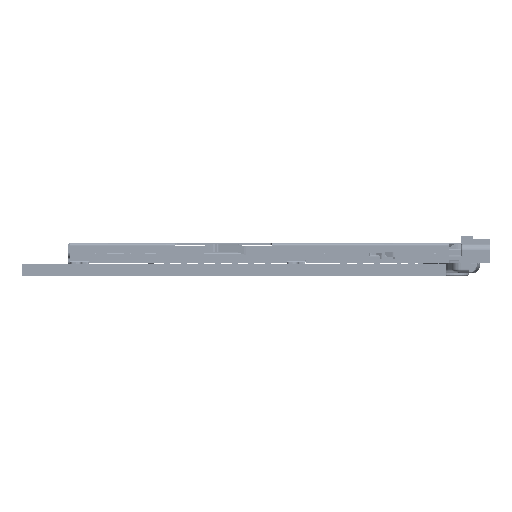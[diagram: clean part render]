
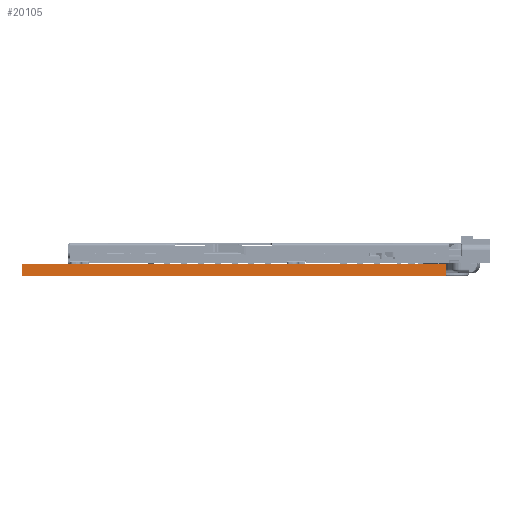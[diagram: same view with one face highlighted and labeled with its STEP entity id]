
A CAD part, left-side view. The second image highlights one B-rep face of the part: STEP entity #20105.
In plain terms, the highlighted planar face has unit normal (-1, 0, 0).
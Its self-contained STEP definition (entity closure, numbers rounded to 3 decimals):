
#15817=DIRECTION('',(0.,1.,0.));
#15818=VECTOR('',#15817,27.81);
#15819=CARTESIAN_POINT('',(-10.,-24.64,-0.85));
#15820=LINE('',#15819,#15818);
#15821=DIRECTION('',(0.,0.,1.));
#15822=VECTOR('',#15821,0.8);
#15823=CARTESIAN_POINT('',(-10.,3.17,-0.85));
#15824=LINE('',#15823,#15822);
#15825=DIRECTION('',(0.,-1.,0.));
#15826=VECTOR('',#15825,27.81);
#15827=CARTESIAN_POINT('',(-10.,3.17,-0.05));
#15828=LINE('',#15827,#15826);
#15829=DIRECTION('',(0.,0.,-1.));
#15830=VECTOR('',#15829,0.8);
#15831=CARTESIAN_POINT('',(-10.,-24.64,
-0.05));
#15832=LINE('',#15831,#15830);
#18330=CARTESIAN_POINT('',(-10.,-24.64,
-0.05));
#18331=VERTEX_POINT('',#18330);
#18332=CARTESIAN_POINT('',(-10.,3.17,-0.05));
#18333=VERTEX_POINT('',#18332);
#18747=CARTESIAN_POINT('',(-10.,-24.64,-0.85));
#18748=VERTEX_POINT('',#18747);
#18781=CARTESIAN_POINT('',(-10.,3.17,-0.85));
#18782=VERTEX_POINT('',#18781);
#20094=CARTESIAN_POINT('',(-10.,-10.735,-0.45));
#20095=DIRECTION('',(1.,0.,0.));
#20096=DIRECTION('',(0.,1.,0.));
#20097=AXIS2_PLACEMENT_3D('',#20094,#20095,#20096);
#20098=PLANE('',#20097);
#20099=ORIENTED_EDGE('',*,*,#20042,.T.);
#20100=ORIENTED_EDGE('',*,*,#20025,.T.);
#20101=ORIENTED_EDGE('',*,*,#19267,.T.);
#20102=ORIENTED_EDGE('',*,*,#19807,.T.);
#20103=EDGE_LOOP('',(#20099,#20100,#20101,#20102));
#20104=FACE_OUTER_BOUND('',#20103,.F.);
#19267=EDGE_CURVE('',#18333,#18331,#15828,.T.);
#19807=EDGE_CURVE('',#18331,#18748,#15832,.T.);
#20025=EDGE_CURVE('',#18782,#18333,#15824,.T.);
#20042=EDGE_CURVE('',#18748,#18782,#15820,.T.);
#20105=ADVANCED_FACE('',(#20104),#20098,.F.);
